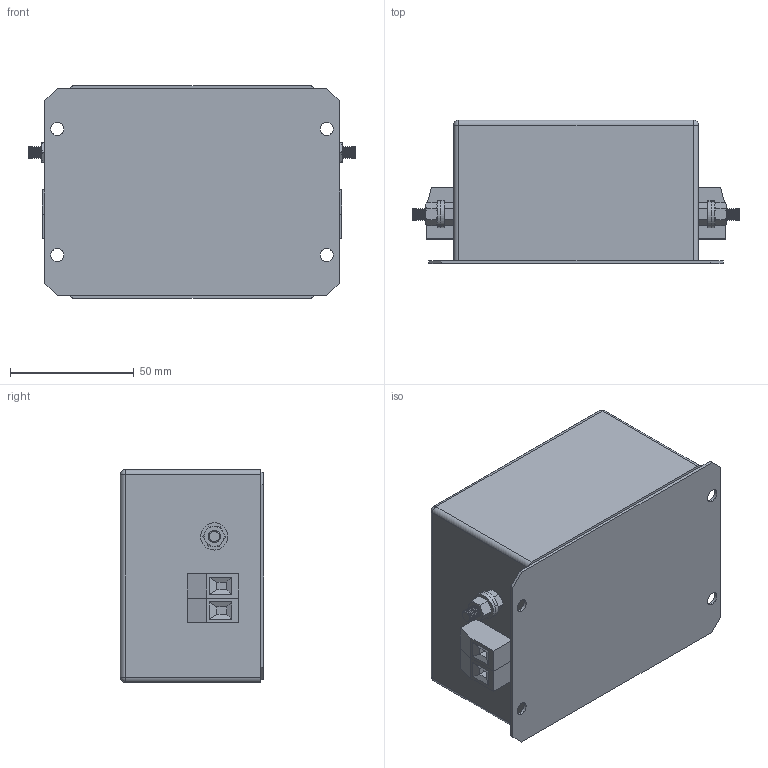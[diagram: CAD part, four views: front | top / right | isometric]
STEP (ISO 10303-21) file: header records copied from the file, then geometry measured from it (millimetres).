
FILE_DESCRIPTION (( 'STEP AP203' ), '1' );
FILE_NAME ('NF-16-1ph-FSE.STEP', '2018-03-05T10:45:26', ( '' ), ( '' ), 'SwSTEP 2.0', 'SolidWorks 2017', '' );
FILE_SCHEMA (( 'CONFIG_CONTROL_DESIGN' ));
Length unit declared in the file: millimetre
Products named in the file (7): flat washer narrow_am_B18.22M - Plain washer, 5 mm, narrow; NF-FNF-1S; hex nut style 1_am_B18.2.4.1M - Hex nut, Style 1,  M5 x 0.8 --D-N; hex screw_am_B18.6.7M - M5 x 0.8 x 13 Indented HHMS --13S; VDFK-4; M5x13 Earth post; NF-16-1ph-FSE
Assembly tree (11 placements, depth 3):
  NF-16-1ph-FSE
    NF-FNF-1S
    VDFK-4  x4
    M5x13 Earth post  x2
      hex screw_am_B18.6.7M - M5 x 0.8 x 13 Indented HHMS --13S
      flat washer narrow_am_B18.22M - Plain washer, 5 mm, narrow
      hex nut style 1_am_B18.2.4.1M - Hex nut, Style 1,  M5 x 0.8 --D-N
Bounding box: 132.6 x 58 x 86 mm (x, y, z)
Volume: 493861.3 mm3; surface area: 55714.7 mm2
Topology: 13 solids, 13 shells, 508 faces, 1246 edges, 780 vertices
Faces by surface type: plane 194, cone 176, cylinder 134, sphere 4
Entity records: 7942 total; most frequent: CARTESIAN_POINT 1337, DIRECTION 1311, ORIENTED_EDGE 1150, EDGE_CURVE 575, AXIS2_PLACEMENT_3D 524, VERTEX_POINT 358, CIRCLE 276, VECTOR 263
